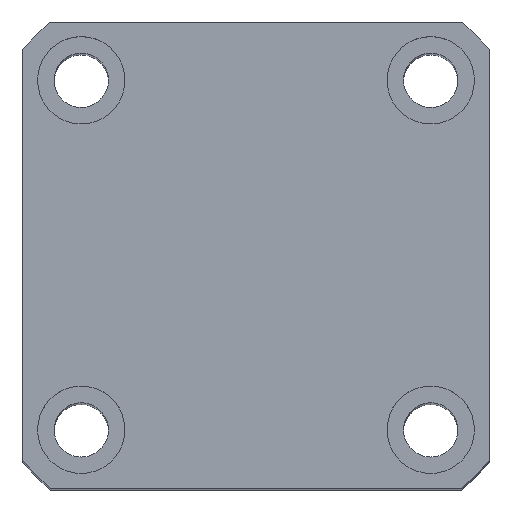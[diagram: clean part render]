
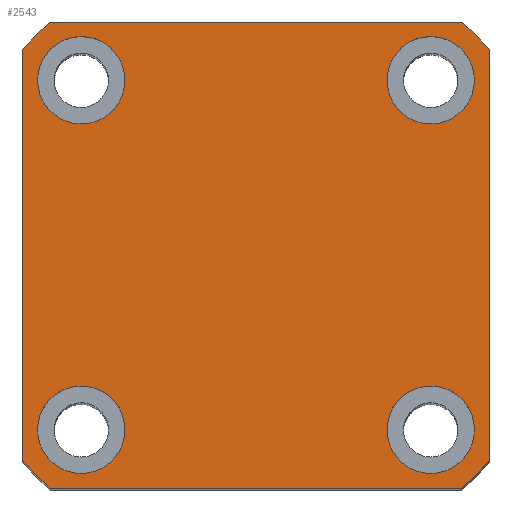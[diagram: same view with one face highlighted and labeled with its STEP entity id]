
A CAD part, top view. The second image highlights one B-rep face of the part: STEP entity #2543.
In plain terms, the highlighted planar face has unit normal (0, 0, 1) as drawn and (1, 0, 0) by its records, which use the part's own axes.
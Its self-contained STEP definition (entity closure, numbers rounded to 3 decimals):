
#11 = CARTESIAN_POINT ( 'NONE',  ( 115., -24., -21.166 ) ) ;
#62 = EDGE_CURVE ( 'NONE', #4202, #8236, #5918, .T. ) ;
#186 = DIRECTION ( 'NONE',  ( 0., 0., -1. ) ) ;
#187 = CARTESIAN_POINT ( 'NONE',  ( 115., 24., -21.166 ) ) ;
#209 = EDGE_LOOP ( 'NONE', ( #4076, #10622 ) ) ;
#430 = DIRECTION ( 'NONE',  ( 1., 0., 0. ) ) ;
#531 = AXIS2_PLACEMENT_3D ( 'NONE', #10540, #5553, #561 ) ;
#557 = EDGE_CURVE ( 'NONE', #9183, #1491, #9840, .T. ) ;
#561 = DIRECTION ( 'NONE',  ( 0., 0., -1. ) ) ;
#637 = EDGE_CURVE ( 'NONE', #5436, #10748, #6841, .T. ) ;
#651 = CIRCLE ( 'NONE', #5406, 4.5 ) ;
#664 = CARTESIAN_POINT ( 'NONE',  ( 115., 0., 0. ) ) ;
#698 = CIRCLE ( 'NONE', #1402, 4.5 ) ;
#770 = CARTESIAN_POINT ( 'NONE',  ( 115., -21.166, 24. ) ) ;
#803 = CARTESIAN_POINT ( 'NONE',  ( 115., 18., 13.5 ) ) ;
#842 = VERTEX_POINT ( 'NONE', #6637 ) ;
#963 = FACE_OUTER_BOUND ( 'NONE', #1734, .T. ) ;
#1093 = FACE_BOUND ( 'NONE', #209, .T. ) ;
#1238 = EDGE_LOOP ( 'NONE', ( #2780, #3816 ) ) ;
#1252 = VERTEX_POINT ( 'NONE', #4264 ) ;
#1294 = CIRCLE ( 'NONE', #10428, 32. ) ;
#1402 = AXIS2_PLACEMENT_3D ( 'NONE', #8353, #8368, #8382 ) ;
#1410 = VERTEX_POINT ( 'NONE', #10087 ) ;
#1430 = EDGE_LOOP ( 'NONE', ( #9182, #2352 ) ) ;
#1456 = CARTESIAN_POINT ( 'NONE',  ( 115., -18., -13.5 ) ) ;
#1490 = DIRECTION ( 'NONE',  ( 0., 0., -1. ) ) ;
#1491 = VERTEX_POINT ( 'NONE', #3181 ) ;
#1513 = EDGE_CURVE ( 'NONE', #8722, #1410, #10614, .T. ) ;
#1553 = CARTESIAN_POINT ( 'NONE',  ( 115., -18., -18. ) ) ;
#1585 = DIRECTION ( 'NONE',  ( 1., 0., 0. ) ) ;
#1620 = DIRECTION ( 'NONE',  ( 1., 0., 0. ) ) ;
#1650 = DIRECTION ( 'NONE',  ( 0., 0., -1. ) ) ;
#1707 = DIRECTION ( 'NONE',  ( 0., 0., -1. ) ) ;
#1734 = EDGE_LOOP ( 'NONE', ( #9979, #8570, #4354, #7513, #4476, #1880, #9971, #4213 ) ) ;
#1776 = CARTESIAN_POINT ( 'NONE',  ( 115., 21.166, -24. ) ) ;
#1787 = VECTOR ( 'NONE', #6293, 1000. ) ;
#1834 = EDGE_CURVE ( 'NONE', #1252, #3206, #698, .T. ) ;
#1867 = AXIS2_PLACEMENT_3D ( 'NONE', #5417, #430, #6255 ) ;
#1880 = ORIENTED_EDGE ( 'NONE', *, *, #637, .T. ) ;
#1952 = CARTESIAN_POINT ( 'NONE',  ( 115., 18., 18. ) ) ;
#1989 = DIRECTION ( 'NONE',  ( 1., 0., 0. ) ) ;
#2022 = DIRECTION ( 'NONE',  ( 0., 0., -1. ) ) ;
#2062 = CARTESIAN_POINT ( 'NONE',  ( 115., 0., 0. ) ) ;
#2073 = AXIS2_PLACEMENT_3D ( 'NONE', #2062, #3008, #1707 ) ;
#2291 = CIRCLE ( 'NONE', #1867, 4.5 ) ;
#2352 = ORIENTED_EDGE ( 'NONE', *, *, #1513, .F. ) ;
#2410 = CARTESIAN_POINT ( 'NONE',  ( 115., 0., 0. ) ) ;
#2543 = ADVANCED_FACE ( 'NONE', ( #5775, #1093, #9701, #3136, #963 ), #10775, .T. ) ;
#2586 = DIRECTION ( 'NONE',  ( 1., 0., 0. ) ) ;
#2607 = DIRECTION ( 'NONE',  ( 1., 0., 0. ) ) ;
#2706 = DIRECTION ( 'NONE',  ( 0., 0., -1. ) ) ;
#2780 = ORIENTED_EDGE ( 'NONE', *, *, #7901, .F. ) ;
#2794 = VERTEX_POINT ( 'NONE', #11 ) ;
#2805 = EDGE_CURVE ( 'NONE', #842, #5617, #4328, .T. ) ;
#3008 = DIRECTION ( 'NONE',  ( 1., 0., 0. ) ) ;
#3136 = FACE_BOUND ( 'NONE', #1238, .T. ) ;
#3168 = DIRECTION ( 'NONE',  ( 0., 0., -1. ) ) ;
#3181 = CARTESIAN_POINT ( 'NONE',  ( 115., -18., -22.5 ) ) ;
#3206 = VERTEX_POINT ( 'NONE', #4705 ) ;
#3398 = CARTESIAN_POINT ( 'NONE',  ( 115., 21.166, 24. ) ) ;
#3438 = VERTEX_POINT ( 'NONE', #1776 ) ;
#3463 = LINE ( 'NONE', #9086, #7690 ) ;
#3679 = DIRECTION ( 'NONE',  ( 1., 0., 0. ) ) ;
#3788 = VECTOR ( 'NONE', #7118, 1000. ) ;
#3816 = ORIENTED_EDGE ( 'NONE', *, *, #62, .F. ) ;
#3952 = AXIS2_PLACEMENT_3D ( 'NONE', #6636, #1620, #7473 ) ;
#4004 = LINE ( 'NONE', #4740, #1787 ) ;
#4037 = AXIS2_PLACEMENT_3D ( 'NONE', #1553, #1585, #1650 ) ;
#4045 = CIRCLE ( 'NONE', #531, 4.5 ) ;
#4076 = ORIENTED_EDGE ( 'NONE', *, *, #7148, .F. ) ;
#4202 = VERTEX_POINT ( 'NONE', #8443 ) ;
#4213 = ORIENTED_EDGE ( 'NONE', *, *, #9204, .T. ) ;
#4264 = CARTESIAN_POINT ( 'NONE',  ( 115., -18., 22.5 ) ) ;
#4286 = EDGE_CURVE ( 'NONE', #1410, #8722, #4045, .T. ) ;
#4328 = CIRCLE ( 'NONE', #2073, 32. ) ;
#4354 = ORIENTED_EDGE ( 'NONE', *, *, #8175, .T. ) ;
#4476 = ORIENTED_EDGE ( 'NONE', *, *, #4673, .T. ) ;
#4673 = EDGE_CURVE ( 'NONE', #5617, #5436, #8255, .T. ) ;
#4702 = AXIS2_PLACEMENT_3D ( 'NONE', #10152, #5166, #186 ) ;
#4705 = CARTESIAN_POINT ( 'NONE',  ( 115., -18., 13.5 ) ) ;
#4740 = CARTESIAN_POINT ( 'NONE',  ( 115., 24., -24. ) ) ;
#4917 = ORIENTED_EDGE ( 'NONE', *, *, #8815, .F. ) ;
#5166 = DIRECTION ( 'NONE',  ( 1., 0., 0. ) ) ;
#5244 = CIRCLE ( 'NONE', #4702, 32. ) ;
#5406 = AXIS2_PLACEMENT_3D ( 'NONE', #7662, #2607, #8506 ) ;
#5417 = CARTESIAN_POINT ( 'NONE',  ( 115., 18., 18. ) ) ;
#5436 = VERTEX_POINT ( 'NONE', #770 ) ;
#5455 = EDGE_CURVE ( 'NONE', #10748, #2794, #10467, .T. ) ;
#5553 = DIRECTION ( 'NONE',  ( 1., 0., 0. ) ) ;
#5617 = VERTEX_POINT ( 'NONE', #3398 ) ;
#5652 = EDGE_CURVE ( 'NONE', #3438, #7252, #5244, .T. ) ;
#5757 = DIRECTION ( 'NONE',  ( 0., 0., 1. ) ) ;
#5775 = FACE_BOUND ( 'NONE', #10153, .T. ) ;
#5846 = DIRECTION ( 'NONE',  ( 0., 0., -1. ) ) ;
#5872 = CARTESIAN_POINT ( 'NONE',  ( 115., 18., -13.5 ) ) ;
#5881 = CARTESIAN_POINT ( 'NONE',  ( 115., 18., -18. ) ) ;
#5894 = DIRECTION ( 'NONE',  ( 1., 0., 0. ) ) ;
#5918 = CIRCLE ( 'NONE', #8756, 4.5 ) ;
#5998 = CARTESIAN_POINT ( 'NONE',  ( 115., -24., 21.166 ) ) ;
#6022 = VECTOR ( 'NONE', #3168, 1000. ) ;
#6235 = AXIS2_PLACEMENT_3D ( 'NONE', #10756, #3679, #7364 ) ;
#6255 = DIRECTION ( 'NONE',  ( 0., 0., -1. ) ) ;
#6293 = DIRECTION ( 'NONE',  ( 0., 1., 0. ) ) ;
#6318 = AXIS2_PLACEMENT_3D ( 'NONE', #2410, #2586, #2706 ) ;
#6502 = DIRECTION ( 'NONE',  ( 1., 0., 0. ) ) ;
#6636 = CARTESIAN_POINT ( 'NONE',  ( 115., -18., 18. ) ) ;
#6637 = CARTESIAN_POINT ( 'NONE',  ( 115., 24., 21.166 ) ) ;
#6841 = CIRCLE ( 'NONE', #6318, 32. ) ;
#6981 = ORIENTED_EDGE ( 'NONE', *, *, #557, .F. ) ;
#7060 = CARTESIAN_POINT ( 'NONE',  ( 115., -21.166, -24. ) ) ;
#7118 = DIRECTION ( 'NONE',  ( 0., -1., 0. ) ) ;
#7148 = EDGE_CURVE ( 'NONE', #3206, #1252, #10702, .T. ) ;
#7221 = AXIS2_PLACEMENT_3D ( 'NONE', #5881, #5894, #5846 ) ;
#7252 = VERTEX_POINT ( 'NONE', #187 ) ;
#7364 = DIRECTION ( 'NONE',  ( 0., 0., -1. ) ) ;
#7473 = DIRECTION ( 'NONE',  ( 0., 0., -1. ) ) ;
#7513 = ORIENTED_EDGE ( 'NONE', *, *, #2805, .T. ) ;
#7662 = CARTESIAN_POINT ( 'NONE',  ( 115., -18., -18. ) ) ;
#7690 = VECTOR ( 'NONE', #5757, 1000. ) ;
#7901 = EDGE_CURVE ( 'NONE', #8236, #4202, #2291, .T. ) ;
#7982 = EDGE_CURVE ( 'NONE', #8028, #3438, #4004, .T. ) ;
#8028 = VERTEX_POINT ( 'NONE', #7060 ) ;
#8175 = EDGE_CURVE ( 'NONE', #7252, #842, #3463, .T. ) ;
#8236 = VERTEX_POINT ( 'NONE', #803 ) ;
#8255 = LINE ( 'NONE', #9547, #3788 ) ;
#8353 = CARTESIAN_POINT ( 'NONE',  ( 115., -18., 18. ) ) ;
#8368 = DIRECTION ( 'NONE',  ( 1., 0., 0. ) ) ;
#8382 = DIRECTION ( 'NONE',  ( 0., 0., -1. ) ) ;
#8443 = CARTESIAN_POINT ( 'NONE',  ( 115., 18., 22.5 ) ) ;
#8506 = DIRECTION ( 'NONE',  ( 0., 0., -1. ) ) ;
#8570 = ORIENTED_EDGE ( 'NONE', *, *, #5652, .T. ) ;
#8722 = VERTEX_POINT ( 'NONE', #5872 ) ;
#8756 = AXIS2_PLACEMENT_3D ( 'NONE', #1952, #1989, #2022 ) ;
#8815 = EDGE_CURVE ( 'NONE', #1491, #9183, #651, .T. ) ;
#9086 = CARTESIAN_POINT ( 'NONE',  ( 115., 24., 24. ) ) ;
#9120 = CARTESIAN_POINT ( 'NONE',  ( 115., -24., 24. ) ) ;
#9182 = ORIENTED_EDGE ( 'NONE', *, *, #4286, .F. ) ;
#9183 = VERTEX_POINT ( 'NONE', #1456 ) ;
#9204 = EDGE_CURVE ( 'NONE', #2794, #8028, #1294, .T. ) ;
#9547 = CARTESIAN_POINT ( 'NONE',  ( 115., 24., 24. ) ) ;
#9701 = FACE_BOUND ( 'NONE', #1430, .T. ) ;
#9840 = CIRCLE ( 'NONE', #4037, 4.5 ) ;
#9971 = ORIENTED_EDGE ( 'NONE', *, *, #5455, .T. ) ;
#9979 = ORIENTED_EDGE ( 'NONE', *, *, #7982, .T. ) ;
#10087 = CARTESIAN_POINT ( 'NONE',  ( 115., 18., -22.5 ) ) ;
#10152 = CARTESIAN_POINT ( 'NONE',  ( 115., 0., 0. ) ) ;
#10153 = EDGE_LOOP ( 'NONE', ( #4917, #6981 ) ) ;
#10428 = AXIS2_PLACEMENT_3D ( 'NONE', #664, #6502, #1490 ) ;
#10467 = LINE ( 'NONE', #9120, #6022 ) ;
#10540 = CARTESIAN_POINT ( 'NONE',  ( 115., 18., -18. ) ) ;
#10614 = CIRCLE ( 'NONE', #7221, 4.5 ) ;
#10622 = ORIENTED_EDGE ( 'NONE', *, *, #1834, .F. ) ;
#10702 = CIRCLE ( 'NONE', #3952, 4.5 ) ;
#10748 = VERTEX_POINT ( 'NONE', #5998 ) ;
#10756 = CARTESIAN_POINT ( 'NONE',  ( 115., 0., 0. ) ) ;
#10775 = PLANE ( 'NONE',  #6235 ) ;
